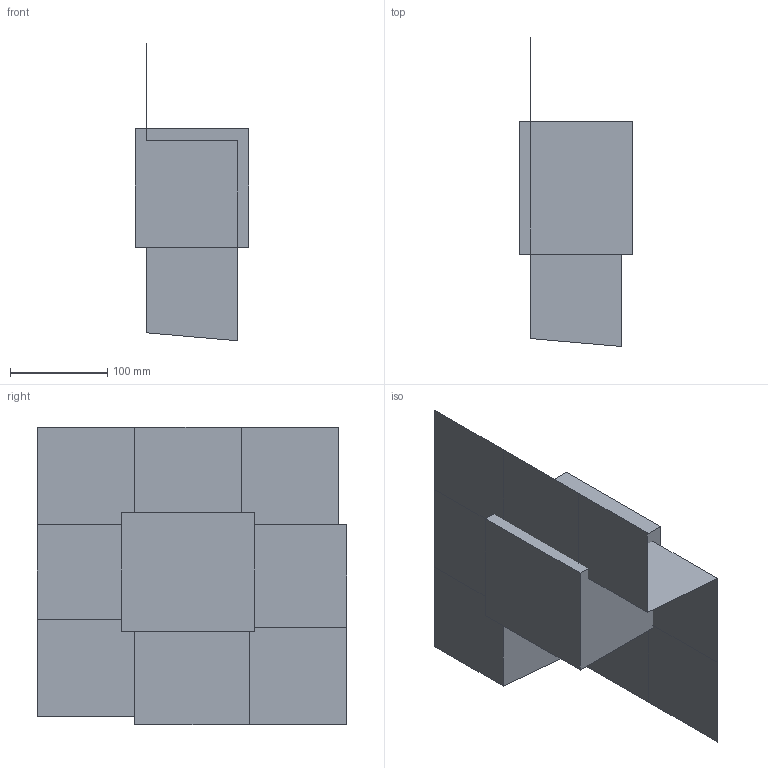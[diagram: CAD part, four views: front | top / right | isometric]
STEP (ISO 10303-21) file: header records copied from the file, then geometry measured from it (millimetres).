
FILE_DESCRIPTION(('CATIA V5 STEP Exchange'),'2;1');
FILE_NAME('C:\_Andres\UNIVERSIDAD\IQS\ASIGNATURAS\DAO\EXF\EXF-15161c\1original\Vallsmadella_Quintanilla_Ej02-moldes_v27.stp','2016-03-04T15:45:46+00:00',('none'),('none'),'CATIA Version 5 Release 20 SP 1 (IN-10)','CATIA V5 STEP AP203','none');
FILE_SCHEMA(('CONFIG_CONTROL_DESIGN'));
Length unit declared in the file: millimetre
Products named in the file (1): Vallsmadella_Quintanilla_Ej02-moldes_v27
Bounding box: 117 x 317.79 x 305.79 mm (x, y, z)
Volume: 4134064.6 mm3; surface area: 416662.7 mm2
Topology: 3 solids, 7 shells, 45 faces, 118 edges, 83 vertices
Faces by surface type: plane 41, cylinder 4
Entity records: 1101 total; most frequent: ORIENTED_EDGE 198, CARTESIAN_POINT 179, DIRECTION 147, EDGE_CURVE 83, VECTOR 73, LINE 73, VERTEX_POINT 56, EDGE_LOOP 49
